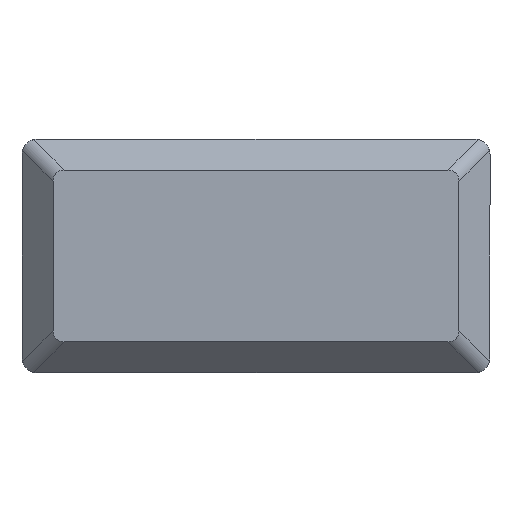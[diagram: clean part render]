
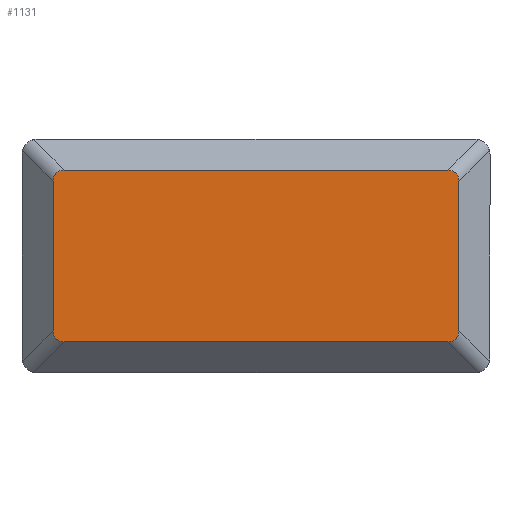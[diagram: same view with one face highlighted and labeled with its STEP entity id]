
A CAD part, front view. The second image highlights one B-rep face of the part: STEP entity #1131.
In plain terms, the highlighted planar face has unit normal (0, -1, 0).
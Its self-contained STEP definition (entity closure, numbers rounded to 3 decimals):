
#11 = CARTESIAN_POINT ( 'NONE',  ( -11.94, 0., 5.404 ) ) ;
#18 = DIRECTION ( 'NONE',  ( 0., 0., -1. ) ) ;
#46 = VECTOR ( 'NONE', #944, 1000. ) ;
#50 = EDGE_CURVE ( 'NONE', #1080, #777, #403, .T. ) ;
#67 = ORIENTED_EDGE ( 'NONE', *, *, #104, .T. ) ;
#71 = CARTESIAN_POINT ( 'NONE',  ( -11.233, 0., 5.663 ) ) ;
#99 =( BOUNDED_CURVE ( )  B_SPLINE_CURVE ( 3, ( #1370, #501, #630, #1496 ),
 .UNSPECIFIED., .F., .F. ) 
 B_SPLINE_CURVE_WITH_KNOTS ( ( 4, 4 ),
 ( 2.618, 3.665 ),
 .UNSPECIFIED. ) 
 CURVE ( )  GEOMETRIC_REPRESENTATION_ITEM ( )  RATIONAL_B_SPLINE_CURVE ( ( 1., 0.911, 0.911, 1. ) ) 
 REPRESENTATION_ITEM ( '' )  );
#104 = EDGE_CURVE ( 'NONE', #798, #1085, #99, .T. ) ;
#125 = CARTESIAN_POINT ( 'NONE',  ( 13.353, 0., -5.337 ) ) ;
#166 = AXIS2_PLACEMENT_3D ( 'NONE', #964, #459, #1325 ) ;
#185 = DIRECTION ( 'NONE',  ( 0., 0., 1. ) ) ;
#243 = EDGE_CURVE ( 'NONE', #1085, #1342, #737, .T. ) ;
#248 = VERTEX_POINT ( 'NONE', #569 ) ;
#257 =( BOUNDED_CURVE ( )  B_SPLINE_CURVE ( 3, ( #1108, #1350, #11, #373 ),
 .UNSPECIFIED., .F., .F. ) 
 B_SPLINE_CURVE_WITH_KNOTS ( ( 4, 4 ),
 ( 5.76, 6.807 ),
 .UNSPECIFIED. ) 
 CURVE ( )  GEOMETRIC_REPRESENTATION_ITEM ( )  RATIONAL_B_SPLINE_CURVE ( ( 1., 0.911, 0.911, 1. ) ) 
 REPRESENTATION_ITEM ( '' )  );
#270 = CARTESIAN_POINT ( 'NONE',  ( -11.233, 0., -5.337 ) ) ;
#277 = CARTESIAN_POINT ( 'NONE',  ( 13.353, 0., 5.663 ) ) ;
#321 = CARTESIAN_POINT ( 'NONE',  ( -13.94, 0., 5.663 ) ) ;
#339 = PLANE ( 'NONE',  #166 ) ;
#364 = CARTESIAN_POINT ( 'NONE',  ( 14.06, 0., -5.078 ) ) ;
#373 = CARTESIAN_POINT ( 'NONE',  ( -11.94, 0., 4.956 ) ) ;
#403 = LINE ( 'NONE', #871, #1269 ) ;
#429 = CARTESIAN_POINT ( 'NONE',  ( 14.06, 0., 0. ) ) ;
#448 = ORIENTED_EDGE ( 'NONE', *, *, #660, .T. ) ;
#459 = DIRECTION ( 'NONE',  ( 0., -1., 0. ) ) ;
#472 = VECTOR ( 'NONE', #185, 1000. ) ;
#492 = CARTESIAN_POINT ( 'NONE',  ( -11.94, 0., -7.337 ) ) ;
#501 = CARTESIAN_POINT ( 'NONE',  ( 14.06, 0., 5.404 ) ) ;
#533 =( BOUNDED_CURVE ( )  B_SPLINE_CURVE ( 3, ( #125, #858, #364, #1227 ),
 .UNSPECIFIED., .F., .F. ) 
 B_SPLINE_CURVE_WITH_KNOTS ( ( 4, 4 ),
 ( 2.618, 3.665 ),
 .UNSPECIFIED. ) 
 CURVE ( )  GEOMETRIC_REPRESENTATION_ITEM ( )  RATIONAL_B_SPLINE_CURVE ( ( 1., 0.911, 0.911, 1. ) ) 
 REPRESENTATION_ITEM ( '' )  );
#569 = CARTESIAN_POINT ( 'NONE',  ( 14.06, 0., -4.63 ) ) ;
#600 = VERTEX_POINT ( 'NONE', #1349 ) ;
#602 = EDGE_LOOP ( 'NONE', ( #659, #1463, #1036, #1492, #1551, #67, #926, #448 ) ) ;
#619 = EDGE_CURVE ( 'NONE', #777, #248, #533, .T. ) ;
#630 = CARTESIAN_POINT ( 'NONE',  ( 13.801, 0., 5.663 ) ) ;
#633 = CARTESIAN_POINT ( 'NONE',  ( -11.94, 0., -4.63 ) ) ;
#659 = ORIENTED_EDGE ( 'NONE', *, *, #1443, .T. ) ;
#660 = EDGE_CURVE ( 'NONE', #1342, #850, #257, .T. ) ;
#690 = CARTESIAN_POINT ( 'NONE',  ( -11.94, 0., 4.956 ) ) ;
#720 = VECTOR ( 'NONE', #18, 1000. ) ;
#724 =( BOUNDED_CURVE ( )  B_SPLINE_CURVE ( 3, ( #633, #1499, #1020, #270 ),
 .UNSPECIFIED., .F., .F. ) 
 B_SPLINE_CURVE_WITH_KNOTS ( ( 4, 4 ),
 ( 5.76, 6.807 ),
 .UNSPECIFIED. ) 
 CURVE ( )  GEOMETRIC_REPRESENTATION_ITEM ( )  RATIONAL_B_SPLINE_CURVE ( ( 1., 0.911, 0.911, 1. ) ) 
 REPRESENTATION_ITEM ( '' )  );
#737 = LINE ( 'NONE', #321, #46 ) ;
#777 = VERTEX_POINT ( 'NONE', #1557 ) ;
#798 = VERTEX_POINT ( 'NONE', #1288 ) ;
#850 = VERTEX_POINT ( 'NONE', #690 ) ;
#858 = CARTESIAN_POINT ( 'NONE',  ( 13.801, 0., -5.337 ) ) ;
#871 = CARTESIAN_POINT ( 'NONE',  ( 0., 0., -5.337 ) ) ;
#895 = FACE_OUTER_BOUND ( 'NONE', #602, .T. ) ;
#926 = ORIENTED_EDGE ( 'NONE', *, *, #243, .T. ) ;
#944 = DIRECTION ( 'NONE',  ( -1., 0., 0. ) ) ;
#964 = CARTESIAN_POINT ( 'NONE',  ( 0., 0., 0. ) ) ;
#1020 = CARTESIAN_POINT ( 'NONE',  ( -11.681, 0., -5.337 ) ) ;
#1036 = ORIENTED_EDGE ( 'NONE', *, *, #50, .T. ) ;
#1044 = LINE ( 'NONE', #492, #720 ) ;
#1071 = EDGE_CURVE ( 'NONE', #600, #1080, #724, .T. ) ;
#1080 = VERTEX_POINT ( 'NONE', #1129 ) ;
#1085 = VERTEX_POINT ( 'NONE', #277 ) ;
#1108 = CARTESIAN_POINT ( 'NONE',  ( -11.233, 0., 5.663 ) ) ;
#1129 = CARTESIAN_POINT ( 'NONE',  ( -11.233, 0., -5.337 ) ) ;
#1131 = ADVANCED_FACE ( 'NONE', ( #895 ), #339, .T. ) ;
#1175 = LINE ( 'NONE', #429, #472 ) ;
#1197 = EDGE_CURVE ( 'NONE', #248, #798, #1175, .T. ) ;
#1227 = CARTESIAN_POINT ( 'NONE',  ( 14.06, 0., -4.63 ) ) ;
#1269 = VECTOR ( 'NONE', #1356, 1000. ) ;
#1288 = CARTESIAN_POINT ( 'NONE',  ( 14.06, 0., 4.956 ) ) ;
#1325 = DIRECTION ( 'NONE',  ( 0., 0., -1. ) ) ;
#1342 = VERTEX_POINT ( 'NONE', #71 ) ;
#1349 = CARTESIAN_POINT ( 'NONE',  ( -11.94, 0., -4.63 ) ) ;
#1350 = CARTESIAN_POINT ( 'NONE',  ( -11.681, 0., 5.663 ) ) ;
#1356 = DIRECTION ( 'NONE',  ( 1., 0., 0. ) ) ;
#1370 = CARTESIAN_POINT ( 'NONE',  ( 14.06, 0., 4.956 ) ) ;
#1443 = EDGE_CURVE ( 'NONE', #850, #600, #1044, .T. ) ;
#1463 = ORIENTED_EDGE ( 'NONE', *, *, #1071, .T. ) ;
#1492 = ORIENTED_EDGE ( 'NONE', *, *, #619, .T. ) ;
#1496 = CARTESIAN_POINT ( 'NONE',  ( 13.353, 0., 5.663 ) ) ;
#1499 = CARTESIAN_POINT ( 'NONE',  ( -11.94, 0., -5.078 ) ) ;
#1551 = ORIENTED_EDGE ( 'NONE', *, *, #1197, .T. ) ;
#1557 = CARTESIAN_POINT ( 'NONE',  ( 13.353, 0., -5.337 ) ) ;
